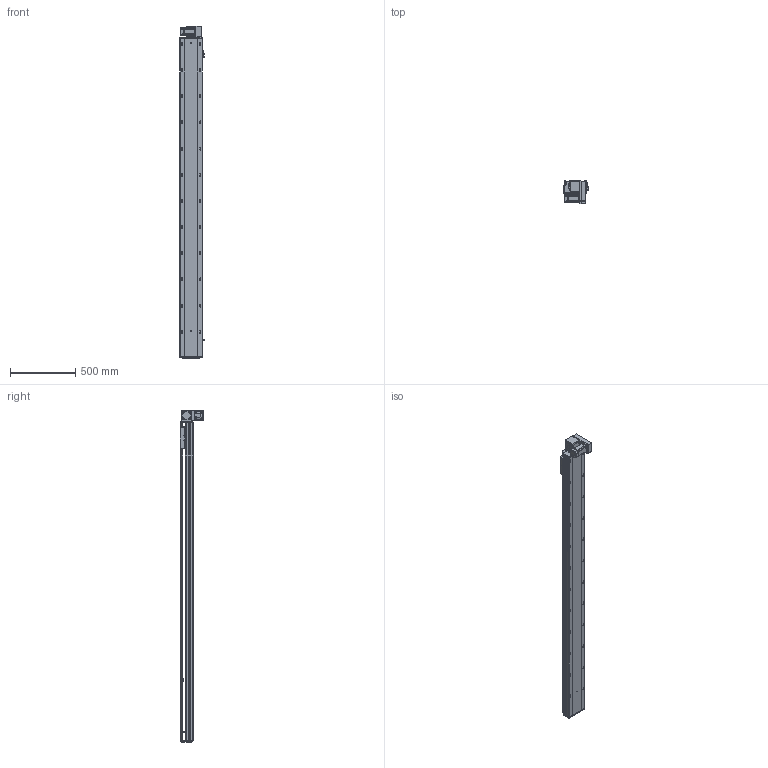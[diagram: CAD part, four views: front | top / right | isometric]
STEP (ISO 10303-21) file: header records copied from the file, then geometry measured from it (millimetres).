
FILE_DESCRIPTION (( 'STEP AP203' ), '1' );
FILE_NAME ('RY170-T-300-DR-P400W.SLDASM_2150.step', '2021-03-01T08:25:08', ( '盈信电脑' ), ( '东莞市道滘镇水果街19号' ), 'SwSTEP 2.0', 'SolidWorks 2012', '' );
FILE_SCHEMA (( 'CONFIG_CONTROL_DESIGN' ));
Length unit declared in the file: millimetre
Products named in the file (19): RY170肮祭謫萇儂欶; RY120-T主同步轮轴承压盖; RY170-T肮祭湍揤踡輸2; RY170-T肮祭湍揤踡輸1; RY170同步轮电机安装板(400W); RY170肮祭謫ヶ裔啣; RY170翋肮祭謫釱; RY170外置感应片(200共用）; 覜茼ん672; RY170-T-300肮祭謫倰第裔啣-DR_2150; RY170肮祭湍臏賑輸; RY170綴裔啣; RY170-T-300肮祭謫倰第菁釱-DR_2150; RY170-T-300-DR-P400W.SLDASM_2150; RY170-T-呴雄粣揤踡啣; 15; 滅袉蝶18-10; RY170-T肮祭謫裔啣; RY170-T蹟翐M4
Assembly tree (23 placements, depth 2):
  RY170-T-300-DR-P400W.SLDASM_2150
    RY170-T-300肮祭謫倰第菁釱-DR_2150
    RY170肮祭湍臏賑輸
    RY170-T-300肮祭謫倰第裔啣-DR_2150
    RY170綴裔啣
    覜茼ん672  x3
    RY170外置感应片(200共用）
    RY170肮祭謫ヶ裔啣
    RY170翋肮祭謫釱
    RY170同步轮电机安装板(400W)
    RY170肮祭謫萇儂欶
    RY170-T肮祭湍揤踡輸1  x2
    RY170-T肮祭湍揤踡輸2  x2
    RY120-T主同步轮轴承压盖
    RY170-T肮祭謫裔啣
    RY170-T蹟翐M4
    滅袉蝶18-10  x2
    RY170-T-呴雄粣揤踡啣
    15
Bounding box: 183.7 x 178 x 2538 mm (x, y, z)
Volume: 11714330.3 mm3; surface area: 4041855.9 mm2
Topology: 23 solids, 23 shells, 3046 faces, 8538 edges, 5437 vertices
Faces by surface type: cylinder 1426, plane 1274, cone 316, bspline 30
Entity records: 92837 total; most frequent: CARTESIAN_POINT 21498, ORIENTED_EDGE 14624, DIRECTION 14266, EDGE_CURVE 7312, AXIS2_PLACEMENT_3D 5075, VERTEX_POINT 4793, VECTOR 4116, LINE 4116
